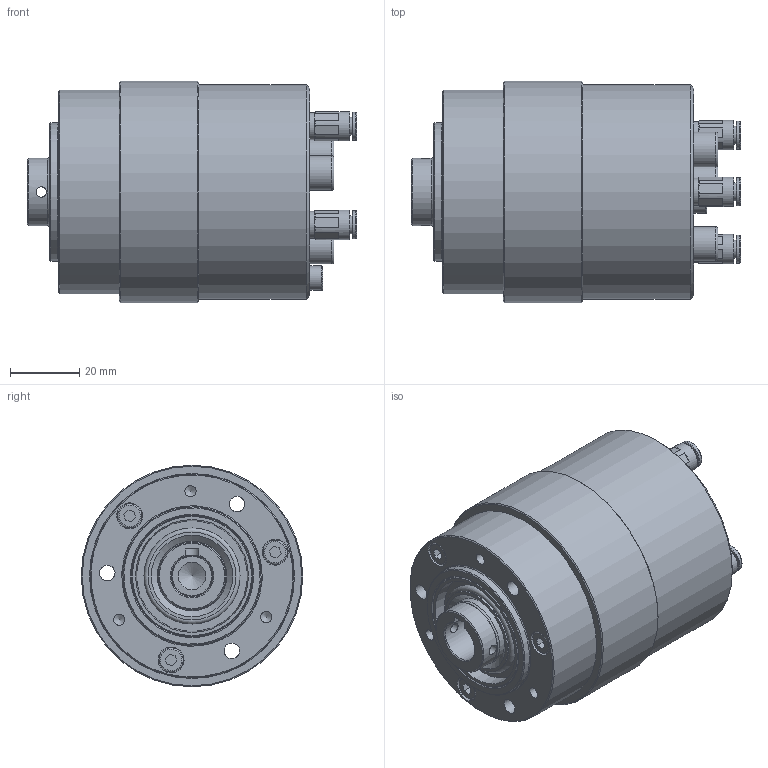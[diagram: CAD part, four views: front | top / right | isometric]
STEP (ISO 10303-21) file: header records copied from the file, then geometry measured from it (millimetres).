
FILE_DESCRIPTION(/* description */ (''),/* implementation_level */ '2;1');
FILE_NAME(/* name */ 'G:\02 CAD Dateien\02 - CAD Schrittmotoren BPS\01 - Standart Produkte\BPS 1620-23\Verkaufsunterlagen\STEP ab JULI 2017\500-16-360 Schrittmotor BPS-1620IP-0027.stp',/* time_stamp */ '2019-03-08T10:44:21+01:00',/* author */ ('RSc'),/* organization */ (''),/* preprocessor_version */ 'ST-DEVELOPER v16.1',/* originating_system */ 'Autodesk Inventor 2016',/* authorisation */ '');
FILE_SCHEMA (('AUTOMOTIVE_DESIGN { 1 0 10303 214 3 1 1 }'));
Length unit declared in the file: centimetre
Products named in the file (1): Test500-16-360 Schrittmotor BPS-1620IP-0027
Bounding box: 95.1 x 64 x 64 mm (x, y, z)
Volume: 210549.9 mm3; surface area: 46860.4 mm2
Topology: 24 solids, 43 shells, 511 faces, 1228 edges, 801 vertices
Faces by surface type: plane 238, cylinder 94, torus 76, cone 50, bspline 31, sphere 22
Full cylindrical faces by diameter (mm): 2 x2, 3 x3, 3.242 x3, 4 x6, 4.5 x7, 5.2 x3, 6 x3, 6.5 x3, 7 x4, 7.5 x3, 7.8 x3, 8 x1, 8.1 x3, 8.5 x3, 9 x1, 10 x3, 12 x1, 19 x1, 19.5 x1, 20 x4, 25.325 x1, 25.4 x1, 26.657 x2, 26.857 x2, 35 x2, 35.343 x1, 36.675 x2, 38.675 x2, 40 x1, 42 x2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
Entity records: 14196 total; most frequent: CARTESIAN_POINT 2839, DIRECTION 2236, ORIENTED_EDGE 1998, EDGE_CURVE 952, AXIS2_PLACEMENT_3D 911, EDGE_LOOP 773, VERTEX_POINT 693, ADVANCED_FACE 511
